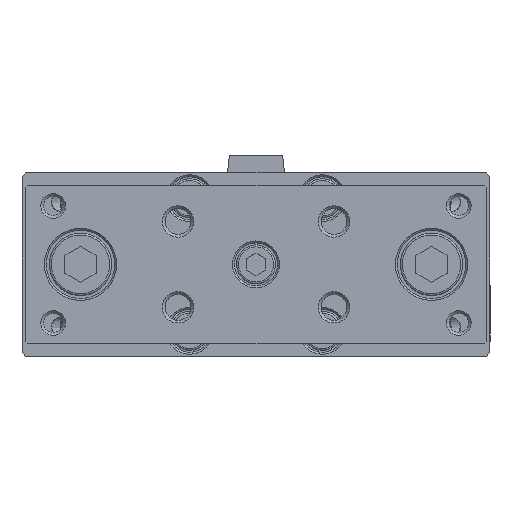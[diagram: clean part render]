
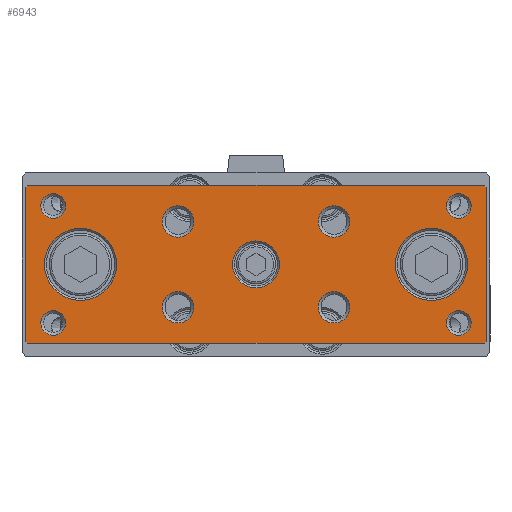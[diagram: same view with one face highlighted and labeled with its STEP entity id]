
A CAD part, top view. The second image highlights one B-rep face of the part: STEP entity #6943.
In plain terms, the highlighted planar face has unit normal (0, 0, 1).
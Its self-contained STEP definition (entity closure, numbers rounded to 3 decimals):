
#6725=CARTESIAN_POINT('',(-62.226,-20.37,151.));
#6726=VERTEX_POINT('',#6725);
#6727=CARTESIAN_POINT('',(-62.726,-19.87,151.));
#6728=VERTEX_POINT('',#6727);
#6729=CARTESIAN_POINT('',(-62.226,-20.37,151.));
#6730=DIRECTION('',(-0.707,0.707,0.0));
#6731=VECTOR('',#6730,0.707);
#6732=LINE('',#6729,#6731);
#6733=EDGE_CURVE('',#6726,#6728,#6732,.T.);
#6760=CARTESIAN_POINT('',(-3.726,-0.12,151.));
#6761=DIRECTION('',(0.0,0.0,1.0));
#6762=DIRECTION('',(1.0,0.0,0.0));
#6763=AXIS2_PLACEMENT_3D('',#6760,#6761,#6762);
#6764=PLANE('',#6763);
#6765=ORIENTED_EDGE('',*,*,#6733,.F.);
#6766=CARTESIAN_POINT('',(54.774,-20.37,151.));
#6767=VERTEX_POINT('',#6766);
#6768=CARTESIAN_POINT('',(54.774,-20.37,151.));
#6769=DIRECTION('',(-1.0,0.0,0.0));
#6770=VECTOR('',#6769,117.0);
#6771=LINE('',#6768,#6770);
#6772=EDGE_CURVE('',#6767,#6726,#6771,.T.);
#6773=ORIENTED_EDGE('',*,*,#6772,.F.);
#6774=CARTESIAN_POINT('',(55.274,-19.87,151.));
#6775=VERTEX_POINT('',#6774);
#6776=CARTESIAN_POINT('',(55.274,-19.87,151.));
#6777=DIRECTION('',(-0.707,-0.707,0.0));
#6778=VECTOR('',#6777,0.707);
#6779=LINE('',#6776,#6778);
#6780=EDGE_CURVE('',#6775,#6767,#6779,.T.);
#6781=ORIENTED_EDGE('',*,*,#6780,.F.);
#6782=CARTESIAN_POINT('',(55.274,19.63,151.));
#6783=VERTEX_POINT('',#6782);
#6784=CARTESIAN_POINT('',(55.274,19.63,151.));
#6785=DIRECTION('',(0.0,-1.0,0.0));
#6786=VECTOR('',#6785,39.5);
#6787=LINE('',#6784,#6786);
#6788=EDGE_CURVE('',#6783,#6775,#6787,.T.);
#6789=ORIENTED_EDGE('',*,*,#6788,.F.);
#6790=CARTESIAN_POINT('',(54.774,20.13,151.));
#6791=VERTEX_POINT('',#6790);
#6792=CARTESIAN_POINT('',(54.774,20.13,151.));
#6793=DIRECTION('',(0.707,-0.707,0.0));
#6794=VECTOR('',#6793,0.707);
#6795=LINE('',#6792,#6794);
#6796=EDGE_CURVE('',#6791,#6783,#6795,.T.);
#6797=ORIENTED_EDGE('',*,*,#6796,.F.);
#6798=CARTESIAN_POINT('',(-62.226,20.13,151.));
#6799=VERTEX_POINT('',#6798);
#6800=CARTESIAN_POINT('',(-62.226,20.13,151.));
#6801=DIRECTION('',(1.0,0.0,0.0));
#6802=VECTOR('',#6801,117.0);
#6803=LINE('',#6800,#6802);
#6804=EDGE_CURVE('',#6799,#6791,#6803,.T.);
#6805=ORIENTED_EDGE('',*,*,#6804,.F.);
#6806=CARTESIAN_POINT('',(-62.726,19.63,151.));
#6807=VERTEX_POINT('',#6806);
#6808=CARTESIAN_POINT('',(-62.726,19.63,151.));
#6809=DIRECTION('',(0.707,0.707,0.0));
#6810=VECTOR('',#6809,0.707);
#6811=LINE('',#6808,#6810);
#6812=EDGE_CURVE('',#6807,#6799,#6811,.T.);
#6813=ORIENTED_EDGE('',*,*,#6812,.F.);
#6814=CARTESIAN_POINT('',(-62.726,-19.87,151.));
#6815=DIRECTION('',(0.0,1.0,0.0));
#6816=VECTOR('',#6815,39.5);
#6817=LINE('',#6814,#6816);
#6818=EDGE_CURVE('',#6728,#6807,#6817,.T.);
#6819=ORIENTED_EDGE('',*,*,#6818,.F.);
#6820=EDGE_LOOP('',(#6765,#6773,#6781,#6789,#6797,#6805,#6813,#6819));
#6821=FACE_OUTER_BOUND('',#6820,.T.);
#6822=CARTESIAN_POINT('',(50.524,-0.12,151.));
#6823=VERTEX_POINT('',#6822);
#6824=CARTESIAN_POINT('',(41.274,-0.12,151.));
#6825=DIRECTION('',(0.0,0.0,1.0));
#6826=DIRECTION('',(-1.0,0.0,0.0));
#6827=AXIS2_PLACEMENT_3D('',#6824,#6825,#6826);
#6828=CIRCLE('',#6827,9.25);
#6829=EDGE_CURVE('',#6823,#6823,#6828,.T.);
#6830=ORIENTED_EDGE('',*,*,#6829,.F.);
#6831=EDGE_LOOP('',(#6830));
#6832=FACE_BOUND('',#6831,.T.);
#6833=CARTESIAN_POINT('',(2.274,-0.12,151.));
#6834=VERTEX_POINT('',#6833);
#6835=CARTESIAN_POINT('',(-3.726,-0.12,151.));
#6836=DIRECTION('',(0.0,0.0,1.0));
#6837=DIRECTION('',(-1.0,0.0,0.0));
#6838=AXIS2_PLACEMENT_3D('',#6835,#6836,#6837);
#6839=CIRCLE('',#6838,6.);
#6840=EDGE_CURVE('',#6834,#6834,#6839,.T.);
#6841=ORIENTED_EDGE('',*,*,#6840,.F.);
#6842=EDGE_LOOP('',(#6841));
#6843=FACE_BOUND('',#6842,.T.);
#6844=CARTESIAN_POINT('',(20.298,-11.12,151.));
#6845=VERTEX_POINT('',#6844);
#6846=CARTESIAN_POINT('',(16.274,-11.12,151.));
#6847=DIRECTION('',(0.0,0.0,1.0));
#6848=DIRECTION('',(-1.0,0.0,0.0));
#6849=AXIS2_PLACEMENT_3D('',#6846,#6847,#6848);
#6850=CIRCLE('',#6849,4.024);
#6851=EDGE_CURVE('',#6845,#6845,#6850,.T.);
#6852=ORIENTED_EDGE('',*,*,#6851,.F.);
#6853=EDGE_LOOP('',(#6852));
#6854=FACE_BOUND('',#6853,.T.);
#6855=CARTESIAN_POINT('',(-19.702,-11.12,151.));
#6856=VERTEX_POINT('',#6855);
#6857=CARTESIAN_POINT('',(-23.726,-11.12,151.));
#6858=DIRECTION('',(0.0,0.0,1.0));
#6859=DIRECTION('',(-1.0,0.0,0.0));
#6860=AXIS2_PLACEMENT_3D('',#6857,#6858,#6859);
#6861=CIRCLE('',#6860,4.023);
#6862=EDGE_CURVE('',#6856,#6856,#6861,.T.);
#6863=ORIENTED_EDGE('',*,*,#6862,.F.);
#6864=EDGE_LOOP('',(#6863));
#6865=FACE_BOUND('',#6864,.T.);
#6866=CARTESIAN_POINT('',(20.298,10.88,151.));
#6867=VERTEX_POINT('',#6866);
#6868=CARTESIAN_POINT('',(16.274,10.88,151.));
#6869=DIRECTION('',(0.0,0.0,1.0));
#6870=DIRECTION('',(-1.0,0.0,0.0));
#6871=AXIS2_PLACEMENT_3D('',#6868,#6869,#6870);
#6872=CIRCLE('',#6871,4.024);
#6873=EDGE_CURVE('',#6867,#6867,#6872,.T.);
#6874=ORIENTED_EDGE('',*,*,#6873,.F.);
#6875=EDGE_LOOP('',(#6874));
#6876=FACE_BOUND('',#6875,.T.);
#6877=CARTESIAN_POINT('',(-19.702,10.88,151.));
#6878=VERTEX_POINT('',#6877);
#6879=CARTESIAN_POINT('',(-23.726,10.88,151.));
#6880=DIRECTION('',(0.0,0.0,1.0));
#6881=DIRECTION('',(-1.0,0.0,0.0));
#6882=AXIS2_PLACEMENT_3D('',#6879,#6880,#6881);
#6883=CIRCLE('',#6882,4.023);
#6884=EDGE_CURVE('',#6878,#6878,#6883,.T.);
#6885=ORIENTED_EDGE('',*,*,#6884,.F.);
#6886=EDGE_LOOP('',(#6885));
#6887=FACE_BOUND('',#6886,.T.);
#6888=CARTESIAN_POINT('',(51.433,14.88,151.));
#6889=VERTEX_POINT('',#6888);
#6890=CARTESIAN_POINT('',(48.274,14.88,151.));
#6891=DIRECTION('',(0.0,0.0,1.0));
#6892=DIRECTION('',(-1.0,0.0,0.0));
#6893=AXIS2_PLACEMENT_3D('',#6890,#6891,#6892);
#6894=CIRCLE('',#6893,3.159);
#6895=EDGE_CURVE('',#6889,#6889,#6894,.T.);
#6896=ORIENTED_EDGE('',*,*,#6895,.F.);
#6897=EDGE_LOOP('',(#6896));
#6898=FACE_BOUND('',#6897,.T.);
#6899=CARTESIAN_POINT('',(51.433,-15.12,151.));
#6900=VERTEX_POINT('',#6899);
#6901=CARTESIAN_POINT('',(48.274,-15.12,151.));
#6902=DIRECTION('',(0.0,0.0,1.0));
#6903=DIRECTION('',(-1.0,0.0,0.0));
#6904=AXIS2_PLACEMENT_3D('',#6901,#6902,#6903);
#6905=CIRCLE('',#6904,3.159);
#6906=EDGE_CURVE('',#6900,#6900,#6905,.T.);
#6907=ORIENTED_EDGE('',*,*,#6906,.F.);
#6908=EDGE_LOOP('',(#6907));
#6909=FACE_BOUND('',#6908,.T.);
#6910=CARTESIAN_POINT('',(-52.567,-15.12,151.));
#6911=VERTEX_POINT('',#6910);
#6912=CARTESIAN_POINT('',(-55.726,-15.12,151.));
#6913=DIRECTION('',(0.0,0.0,1.0));
#6914=DIRECTION('',(-1.0,0.0,0.0));
#6915=AXIS2_PLACEMENT_3D('',#6912,#6913,#6914);
#6916=CIRCLE('',#6915,3.159);
#6917=EDGE_CURVE('',#6911,#6911,#6916,.T.);
#6918=ORIENTED_EDGE('',*,*,#6917,.F.);
#6919=EDGE_LOOP('',(#6918));
#6920=FACE_BOUND('',#6919,.T.);
#6921=CARTESIAN_POINT('',(-52.567,14.88,151.));
#6922=VERTEX_POINT('',#6921);
#6923=CARTESIAN_POINT('',(-55.726,14.88,151.));
#6924=DIRECTION('',(0.0,0.0,1.0));
#6925=DIRECTION('',(-1.0,0.0,0.0));
#6926=AXIS2_PLACEMENT_3D('',#6923,#6924,#6925);
#6927=CIRCLE('',#6926,3.159);
#6928=EDGE_CURVE('',#6922,#6922,#6927,.T.);
#6929=ORIENTED_EDGE('',*,*,#6928,.F.);
#6930=EDGE_LOOP('',(#6929));
#6931=FACE_BOUND('',#6930,.T.);
#6932=CARTESIAN_POINT('',(-39.476,-0.12,151.));
#6933=VERTEX_POINT('',#6932);
#6934=CARTESIAN_POINT('',(-48.726,-0.12,151.));
#6935=DIRECTION('',(0.0,0.0,1.0));
#6936=DIRECTION('',(-1.0,0.0,0.0));
#6937=AXIS2_PLACEMENT_3D('',#6934,#6935,#6936);
#6938=CIRCLE('',#6937,9.25);
#6939=EDGE_CURVE('',#6933,#6933,#6938,.T.);
#6940=ORIENTED_EDGE('',*,*,#6939,.F.);
#6941=EDGE_LOOP('',(#6940));
#6942=FACE_BOUND('',#6941,.T.);
#6943=ADVANCED_FACE('',(#6821,#6832,#6843,#6854,#6865,#6876,#6887,#6898,#6909,#6920,#6931,#6942),#6764,.T.);
